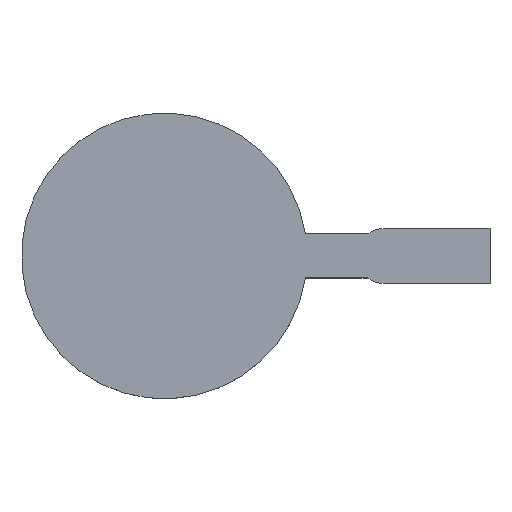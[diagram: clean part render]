
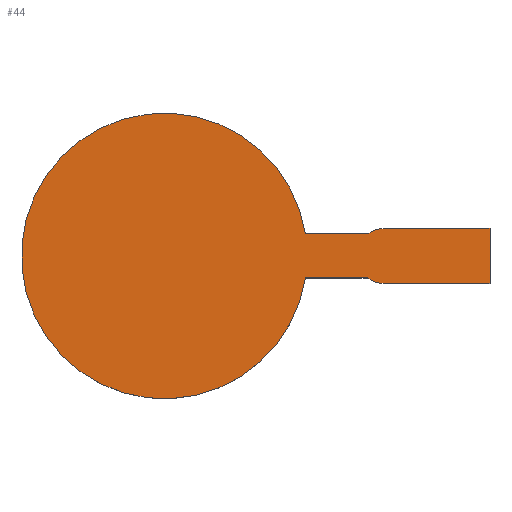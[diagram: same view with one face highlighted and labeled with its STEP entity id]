
A CAD part, top view. The second image highlights one B-rep face of the part: STEP entity #44.
In plain terms, the highlighted planar face has unit normal (0, 0, 1).
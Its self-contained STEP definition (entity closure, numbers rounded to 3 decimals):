
#44 = ADVANCED_FACE( '', ( #101 ), #102, .T. );
#101 = FACE_OUTER_BOUND( '', #172, .T. );
#102 = PLANE( '', #173 );
#172 = EDGE_LOOP( '', ( #237, #238, #239, #240, #241, #242, #243, #244 ) );
#173 = AXIS2_PLACEMENT_3D( '', #245, #246, #247 );
#237 = ORIENTED_EDGE( '', *, *, #409, .T. );
#238 = ORIENTED_EDGE( '', *, *, #410, .T. );
#239 = ORIENTED_EDGE( '', *, *, #411, .T. );
#240 = ORIENTED_EDGE( '', *, *, #412, .T. );
#241 = ORIENTED_EDGE( '', *, *, #413, .T. );
#242 = ORIENTED_EDGE( '', *, *, #414, .T. );
#243 = ORIENTED_EDGE( '', *, *, #415, .T. );
#244 = ORIENTED_EDGE( '', *, *, #416, .T. );
#245 = CARTESIAN_POINT( '', ( 0., 0., 0. ) );
#246 = DIRECTION( '', ( 0., 0., 1. ) );
#247 = DIRECTION( '', ( 1., 0., 0. ) );
#409 = EDGE_CURVE( '', #475, #476, #477, .T. );
#410 = EDGE_CURVE( '', #476, #478, #479, .T. );
#411 = EDGE_CURVE( '', #478, #480, #481, .T. );
#412 = EDGE_CURVE( '', #480, #482, #483, .T. );
#413 = EDGE_CURVE( '', #482, #484, #485, .T. );
#414 = EDGE_CURVE( '', #484, #486, #487, .T. );
#415 = EDGE_CURVE( '', #486, #488, #489, .T. );
#416 = EDGE_CURVE( '', #488, #475, #490, .T. );
#475 = VERTEX_POINT( '', #573 );
#476 = VERTEX_POINT( '', #574 );
#477 = CIRCLE( '', #575, 65. );
#478 = VERTEX_POINT( '', #576 );
#479 = LINE( '', #577, #578 );
#480 = VERTEX_POINT( '', #579 );
#481 = CIRCLE( '', #580, 12.5 );
#482 = VERTEX_POINT( '', #581 );
#483 = LINE( '', #582, #583 );
#484 = VERTEX_POINT( '', #584 );
#485 = LINE( '', #585, #586 );
#486 = VERTEX_POINT( '', #587 );
#487 = LINE( '', #588, #589 );
#488 = VERTEX_POINT( '', #590 );
#489 = CIRCLE( '', #591, 12.5 );
#490 = LINE( '', #592, #593 );
#573 = CARTESIAN_POINT( '', ( 64.226, 10., 0. ) );
#574 = CARTESIAN_POINT( '', ( 64.226, -10., 0. ) );
#575 = AXIS2_PLACEMENT_3D( '', #700, #701, #702 );
#576 = CARTESIAN_POINT( '', ( 92.5, -10., 0. ) );
#577 = CARTESIAN_POINT( '', ( 0., -10., 0. ) );
#578 = VECTOR( '', #703, 1000. );
#579 = CARTESIAN_POINT( '', ( 100., -12.5, 0. ) );
#580 = AXIS2_PLACEMENT_3D( '', #704, #705, #706 );
#581 = CARTESIAN_POINT( '', ( 148.185, -12.5, 0. ) );
#582 = CARTESIAN_POINT( '', ( 100., -12.5, 0. ) );
#583 = VECTOR( '', #707, 1000. );
#584 = CARTESIAN_POINT( '', ( 148.185, 12.5, 0. ) );
#585 = CARTESIAN_POINT( '', ( 148.185, -12.5, 0. ) );
#586 = VECTOR( '', #708, 1000. );
#587 = CARTESIAN_POINT( '', ( 100., 12.5, 0. ) );
#588 = CARTESIAN_POINT( '', ( 148.185, 12.5, 0. ) );
#589 = VECTOR( '', #709, 1000. );
#590 = CARTESIAN_POINT( '', ( 92.5, 10., 0. ) );
#591 = AXIS2_PLACEMENT_3D( '', #710, #711, #712 );
#592 = CARTESIAN_POINT( '', ( 100., 10., 0. ) );
#593 = VECTOR( '', #713, 1000. );
#700 = CARTESIAN_POINT( '', ( 0., 0., 0. ) );
#701 = DIRECTION( '', ( 0., 0., 1. ) );
#702 = DIRECTION( '', ( 1., 0., 0. ) );
#703 = DIRECTION( '', ( 1., 0., 0. ) );
#704 = CARTESIAN_POINT( '', ( 100., 0., 0. ) );
#705 = DIRECTION( '', ( 0., 0., 1. ) );
#706 = DIRECTION( '', ( 0., 1., 0. ) );
#707 = DIRECTION( '', ( 1., 0., 0. ) );
#708 = DIRECTION( '', ( 0., 1., 0. ) );
#709 = DIRECTION( '', ( -1., 0., 0. ) );
#710 = CARTESIAN_POINT( '', ( 100., 0., 0. ) );
#711 = DIRECTION( '', ( 0., 0., 1. ) );
#712 = DIRECTION( '', ( 0., 1., 0. ) );
#713 = DIRECTION( '', ( -1., 0., 0. ) );
